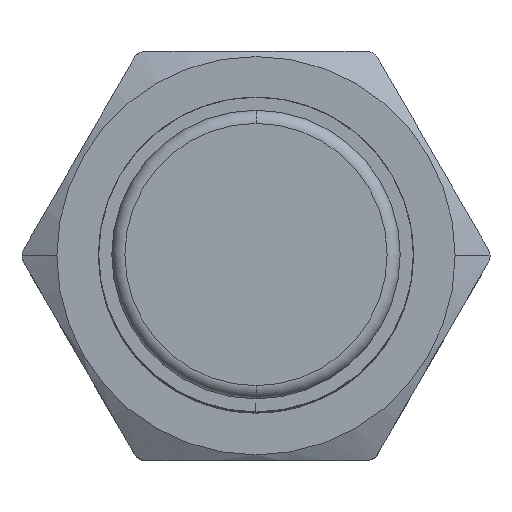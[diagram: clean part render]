
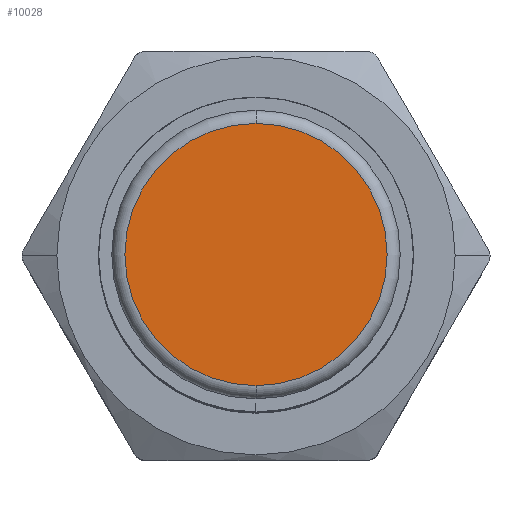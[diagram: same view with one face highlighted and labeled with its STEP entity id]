
A CAD part, top view. The second image highlights one B-rep face of the part: STEP entity #10028.
In plain terms, the highlighted planar face has unit normal (0, 0, 1).
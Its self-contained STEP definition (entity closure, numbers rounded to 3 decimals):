
#4198=CARTESIAN_POINT('',(0.,0.,50.));
#4199=DIRECTION('',(0.,0.,1.));
#4200=DIRECTION('',(0.,-1.,0.));
#4201=AXIS2_PLACEMENT_3D('',#4198,#4199,#4200);
#4203=CARTESIAN_POINT('',(0.,0.,50.));
#4204=DIRECTION('',(0.,0.,1.));
#4205=DIRECTION('',(0.,1.,0.));
#4206=AXIS2_PLACEMENT_3D('',#4203,#4204,#4205);
#5222=CARTESIAN_POINT('',(0.,-5.,50.));
#5223=CARTESIAN_POINT('',(0.,5.,50.));
#5224=VERTEX_POINT('',#5222);
#5225=VERTEX_POINT('',#5223);
#10018=CARTESIAN_POINT('',(0.,0.,50.));
#10019=DIRECTION('',(0.,0.,1.));
#10020=DIRECTION('',(0.,-1.,0.));
#10021=AXIS2_PLACEMENT_3D('',#10018,#10019,#10020);
#10022=PLANE('',#10021);
#10023=ORIENTED_EDGE('',*,*,#10008,.F.);
#10025=ORIENTED_EDGE('',*,*,#10024,.F.);
#10026=EDGE_LOOP('',(#10023,#10025));
#10027=FACE_OUTER_BOUND('',#10026,.F.);
#4202=CIRCLE('',#4201,5.);
#4207=CIRCLE('',#4206,5.);
#10008=EDGE_CURVE('',#5224,#5225,#4202,.T.);
#10024=EDGE_CURVE('',#5225,#5224,#4207,.T.);
#10028=ADVANCED_FACE('',(#10027),#10022,.T.);
